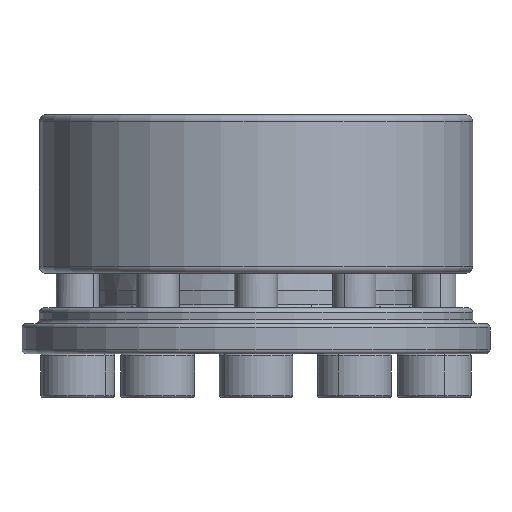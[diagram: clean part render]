
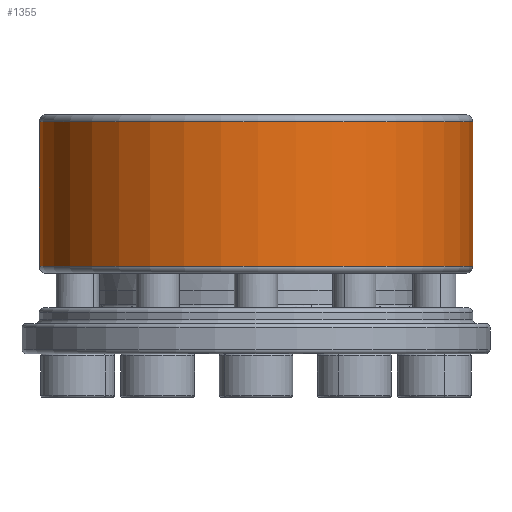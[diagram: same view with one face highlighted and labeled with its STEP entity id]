
A CAD part, front view. The second image highlights one B-rep face of the part: STEP entity #1355.
In plain terms, the highlighted cylindrical face has radius 25 mm (diameter 50 mm), a partial arc.
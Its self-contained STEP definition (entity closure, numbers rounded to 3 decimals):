
#327 = VERTEX_POINT ( 'NONE', #5231 ) ;
#333 = VERTEX_POINT ( 'NONE', #5236 ) ;
#344 = VERTEX_POINT ( 'NONE', #5247 ) ;
#355 = VERTEX_POINT ( 'NONE', #5252 ) ;
#954 = EDGE_CURVE ( 'NONE', #333, #327, #4620, .T. ) ;
#955 = EDGE_CURVE ( 'NONE', #327, #355, #4625, .T. ) ;
#956 = EDGE_CURVE ( 'NONE', #344, #355, #4628, .T. ) ;
#957 = EDGE_CURVE ( 'NONE', #344, #333, #4627, .T. ) ;
#1355 = ADVANCED_FACE ( 'NONE', ( #6985 ), #6994, .T. ) ;
#2000 = ORIENTED_EDGE ( 'NONE', *, *, #954, .T. ) ;
#2001 = ORIENTED_EDGE ( 'NONE', *, *, #955, .T. ) ;
#2002 = ORIENTED_EDGE ( 'NONE', *, *, #956, .F. ) ;
#2003 = ORIENTED_EDGE ( 'NONE', *, *, #957, .T. ) ;
#3094 = EDGE_LOOP ( 'NONE', ( #2000, #2001, #2002, #2003 ) ) ;
#4620 = CIRCLE ( 'NONE', #4951, 25. ) ;
#4625 = LINE ( 'NONE', #6062, #4629 ) ;
#4627 = LINE ( 'NONE', #6066, #4632 ) ;
#4628 = CIRCLE ( 'NONE', #4952, 25. ) ;
#4629 = VECTOR ( 'NONE', #6060, 1000. ) ;
#4632 = VECTOR ( 'NONE', #6061, 1000. ) ;
#4951 = AXIS2_PLACEMENT_3D ( 'NONE', #6063, #6064, #6065 ) ;
#4952 = AXIS2_PLACEMENT_3D ( 'NONE', #6067, #6068, #6069 ) ;
#5231 = CARTESIAN_POINT ( 'NONE',  ( 25., 0., -17.5 ) ) ;
#5236 = CARTESIAN_POINT ( 'NONE',  ( -24.995, -0.5, -17.5 ) ) ;
#5247 = CARTESIAN_POINT ( 'NONE',  ( -24.995, -0.5, -0.8 ) ) ;
#5252 = CARTESIAN_POINT ( 'NONE',  ( 25., 0., -0.8 ) ) ;
#6060 = DIRECTION ( 'NONE',  ( 0., 0., 1. ) ) ;
#6061 = DIRECTION ( 'NONE',  ( 0., 0., -1. ) ) ;
#6062 = CARTESIAN_POINT ( 'NONE',  ( 25., 0., 1.5 ) ) ;
#6063 = CARTESIAN_POINT ( 'NONE',  ( 0., 0., -17.5 ) ) ;
#6064 = DIRECTION ( 'NONE',  ( 0., 0., 1. ) ) ;
#6065 = DIRECTION ( 'NONE',  ( 1., 0., 0. ) ) ;
#6066 = CARTESIAN_POINT ( 'NONE',  ( -24.995, -0.5, 1.5 ) ) ;
#6067 = CARTESIAN_POINT ( 'NONE',  ( 0., 0., -0.8 ) ) ;
#6068 = DIRECTION ( 'NONE',  ( 0., 0., 1. ) ) ;
#6069 = DIRECTION ( 'NONE',  ( 1., 0., 0. ) ) ;
#6985 = FACE_OUTER_BOUND ( 'NONE', #3094, .T. ) ;
#6994 = CYLINDRICAL_SURFACE ( 'NONE', #8240, 25. ) ;
#8240 = AXIS2_PLACEMENT_3D ( 'NONE', #8681, #8678, #8677 ) ;
#8677 = DIRECTION ( 'NONE',  ( 1., 0., 0. ) ) ;
#8678 = DIRECTION ( 'NONE',  ( 0., 0., 1. ) ) ;
#8681 = CARTESIAN_POINT ( 'NONE',  ( 0., 0., 1.5 ) ) ;
